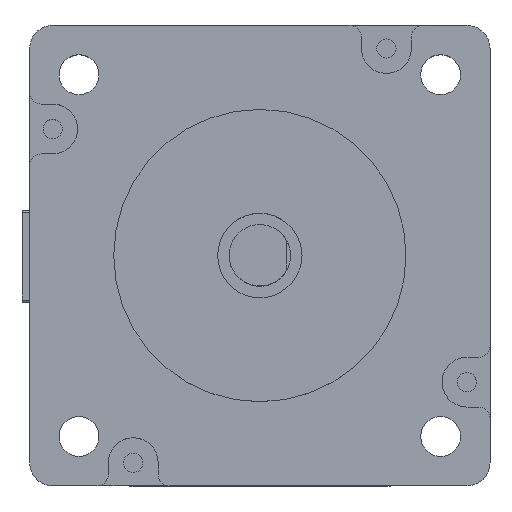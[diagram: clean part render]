
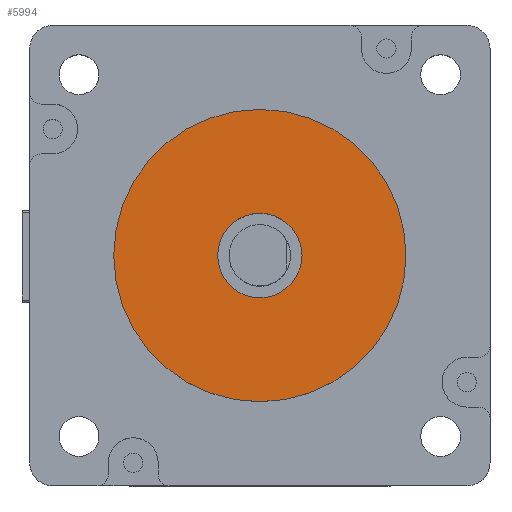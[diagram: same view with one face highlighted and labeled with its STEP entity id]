
A CAD part, top view. The second image highlights one B-rep face of the part: STEP entity #5994.
In plain terms, the highlighted planar face has unit normal (0, 0, 1).
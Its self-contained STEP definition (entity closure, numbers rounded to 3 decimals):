
#29=CARTESIAN_POINT('',(30.,30.,87.6));
#30=DIRECTION('',(0.,0.,-1.));
#31=DIRECTION('',(1.,0.,0.));
#32=AXIS2_PLACEMENT_3D('',#29,#30,#31);
#34=CARTESIAN_POINT('',(30.,30.,87.6));
#35=DIRECTION('',(0.,0.,-1.));
#36=DIRECTION('',(-1.,0.,0.));
#37=AXIS2_PLACEMENT_3D('',#34,#35,#36);
#39=CARTESIAN_POINT('',(30.,30.,87.6));
#40=DIRECTION('',(0.,0.,1.));
#41=DIRECTION('',(1.,0.,0.));
#42=AXIS2_PLACEMENT_3D('',#39,#40,#41);
#44=CARTESIAN_POINT('',(30.,30.,87.6));
#45=DIRECTION('',(0.,0.,1.));
#46=DIRECTION('',(-1.,0.,0.));
#47=AXIS2_PLACEMENT_3D('',#44,#45,#46);
#5921=CARTESIAN_POINT('',(35.5,30.,87.6));
#5922=CARTESIAN_POINT('',(24.5,30.,87.6));
#5923=VERTEX_POINT('',#5921);
#5924=VERTEX_POINT('',#5922);
#5925=CARTESIAN_POINT('',(49.05,30.,87.6));
#5926=CARTESIAN_POINT('',(10.95,30.,87.6));
#5927=VERTEX_POINT('',#5925);
#5928=VERTEX_POINT('',#5926);
#5979=CARTESIAN_POINT('',(0.,0.,87.6));
#5980=DIRECTION('',(0.,0.,1.));
#5981=DIRECTION('',(1.,0.,0.));
#5982=AXIS2_PLACEMENT_3D('',#5979,#5980,#5981);
#5983=PLANE('',#5982);
#5985=ORIENTED_EDGE('',*,*,#5984,.F.);
#5987=ORIENTED_EDGE('',*,*,#5986,.F.);
#5988=EDGE_LOOP('',(#5985,#5987));
#5989=FACE_OUTER_BOUND('',#5988,.F.);
#5990=ORIENTED_EDGE('',*,*,#5958,.F.);
#5991=ORIENTED_EDGE('',*,*,#5972,.F.);
#5992=EDGE_LOOP('',(#5990,#5991));
#5993=FACE_BOUND('',#5992,.F.);
#5994=ADVANCED_FACE('',(#5989,#5993),#5983,.T.);
#33=CIRCLE('',#32,5.5);
#38=CIRCLE('',#37,5.5);
#43=CIRCLE('',#42,19.05);
#48=CIRCLE('',#47,19.05);
#5958=EDGE_CURVE('',#5923,#5924,#33,.T.);
#5972=EDGE_CURVE('',#5924,#5923,#38,.T.);
#5984=EDGE_CURVE('',#5927,#5928,#43,.T.);
#5986=EDGE_CURVE('',#5928,#5927,#48,.T.);
